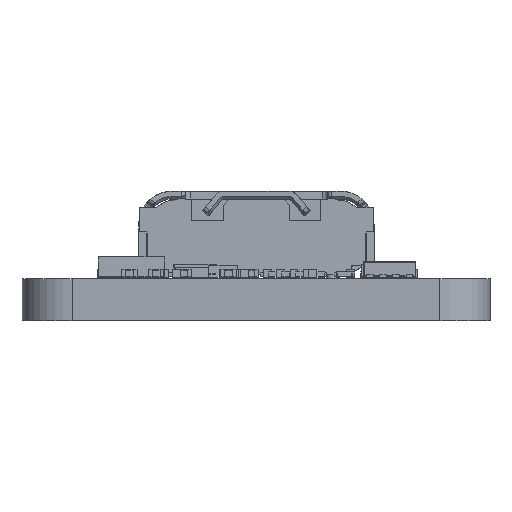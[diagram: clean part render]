
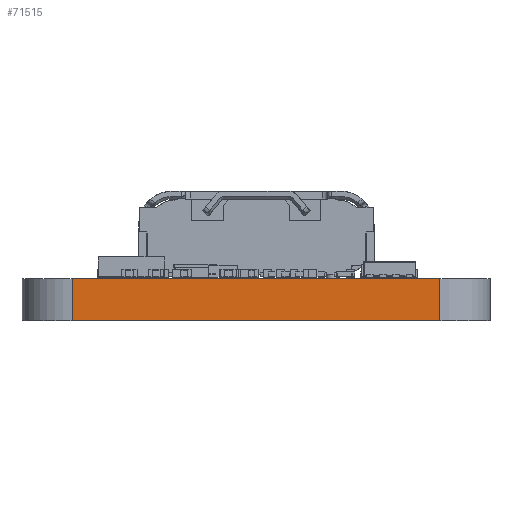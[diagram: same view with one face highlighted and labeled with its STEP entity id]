
A CAD part, left-side view. The second image highlights one B-rep face of the part: STEP entity #71515.
In plain terms, the highlighted planar face has unit normal (-1, 0, 0).
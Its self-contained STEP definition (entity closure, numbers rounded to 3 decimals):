
#69828 = VERTEX_POINT('',#69829);
#69829 = CARTESIAN_POINT('',(97.984,-79.861,0.));
#69836 = EDGE_CURVE('',#69828,#69837,#69839,.T.);
#69837 = VERTEX_POINT('',#69838);
#69838 = CARTESIAN_POINT('',(97.984,-65.891,0.));
#69839 = LINE('',#69840,#69841);
#69840 = CARTESIAN_POINT('',(97.984,-79.861,0.));
#69841 = VECTOR('',#69842,1.);
#69842 = DIRECTION('',(0.,1.,0.));
#70599 = VERTEX_POINT('',#70600);
#70600 = CARTESIAN_POINT('',(97.984,-79.861,1.6));
#70607 = EDGE_CURVE('',#70599,#70608,#70610,.T.);
#70608 = VERTEX_POINT('',#70609);
#70609 = CARTESIAN_POINT('',(97.984,-65.891,1.6));
#70610 = LINE('',#70611,#70612);
#70611 = CARTESIAN_POINT('',(97.984,-79.861,1.6));
#70612 = VECTOR('',#70613,1.);
#70613 = DIRECTION('',(0.,1.,0.));
#71502 = EDGE_CURVE('',#69837,#70608,#71503,.T.);
#71503 = LINE('',#71504,#71505);
#71504 = CARTESIAN_POINT('',(97.984,-65.891,0.));
#71505 = VECTOR('',#71506,1.);
#71506 = DIRECTION('',(0.,0.,1.));
#71515 = ADVANCED_FACE('',(#71516),#71527,.T.);
#71516 = FACE_BOUND('',#71517,.T.);
#71517 = EDGE_LOOP('',(#71518,#71524,#71525,#71526));
#71518 = ORIENTED_EDGE('',*,*,#71519,.T.);
#71519 = EDGE_CURVE('',#69828,#70599,#71520,.T.);
#71520 = LINE('',#71521,#71522);
#71521 = CARTESIAN_POINT('',(97.984,-79.861,0.));
#71522 = VECTOR('',#71523,1.);
#71523 = DIRECTION('',(0.,0.,1.));
#71524 = ORIENTED_EDGE('',*,*,#70607,.T.);
#71525 = ORIENTED_EDGE('',*,*,#71502,.F.);
#71526 = ORIENTED_EDGE('',*,*,#69836,.F.);
#71527 = PLANE('',#71528);
#71528 = AXIS2_PLACEMENT_3D('',#71529,#71530,#71531);
#71529 = CARTESIAN_POINT('',(97.984,-79.861,0.));
#71530 = DIRECTION('',(-1.,0.,0.));
#71531 = DIRECTION('',(0.,1.,0.));
